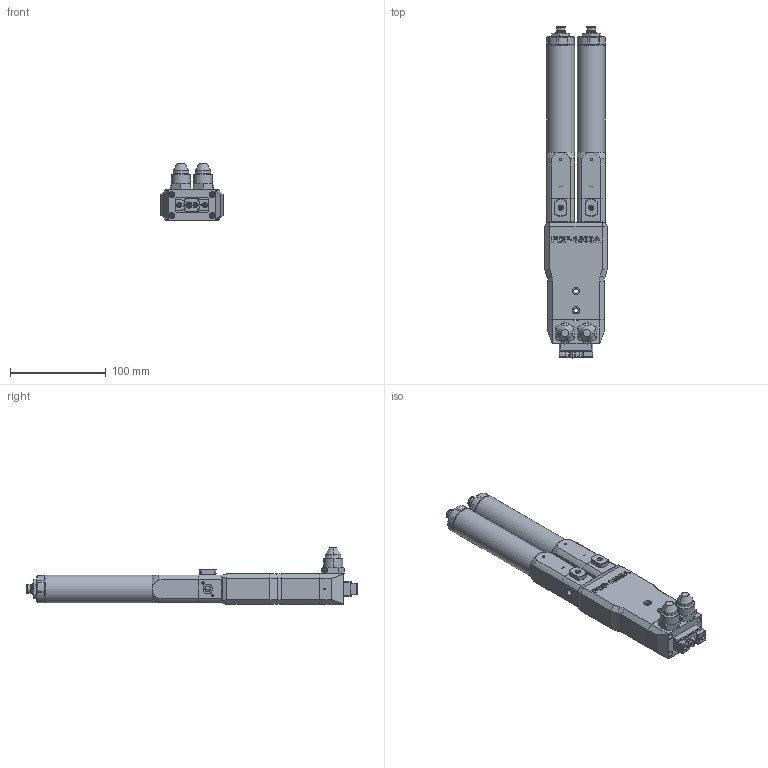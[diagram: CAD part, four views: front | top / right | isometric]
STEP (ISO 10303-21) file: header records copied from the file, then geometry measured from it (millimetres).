
FILE_DESCRIPTION (( 'STEP AP214' ), '1' );
FILE_NAME ('PDPM-1500-1000BB.STEP', '2024-10-11T12:35:30', ( '' ), ( '' ), 'SwSTEP 2.0', 'SolidWorks 2024', '' );
FILE_SCHEMA (( 'AUTOMOTIVE_DESIGN' ));
Length unit declared in the file: millimetre
Products named in the file (1): PDPM-1500-1000BB
Bounding box: 65 x 347 x 59.3 mm (x, y, z)
Volume: 527893.2 mm3; surface area: 127716.7 mm2
Topology: 13 solids, 13 shells, 1716 faces, 4385 edges, 2790 vertices
Faces by surface type: plane 820, cylinder 534, cone 315, bspline 27, torus 12, sphere 8
Full cylindrical faces by diameter (mm): 29 x2
Entity records: 68838 total; most frequent: CARTESIAN_POINT 27675, ORIENTED_EDGE 8680, DIRECTION 8370, EDGE_CURVE 4340, AXIS2_PLACEMENT_3D 2973, VERTEX_POINT 2789, VECTOR 2424, LINE 2424
